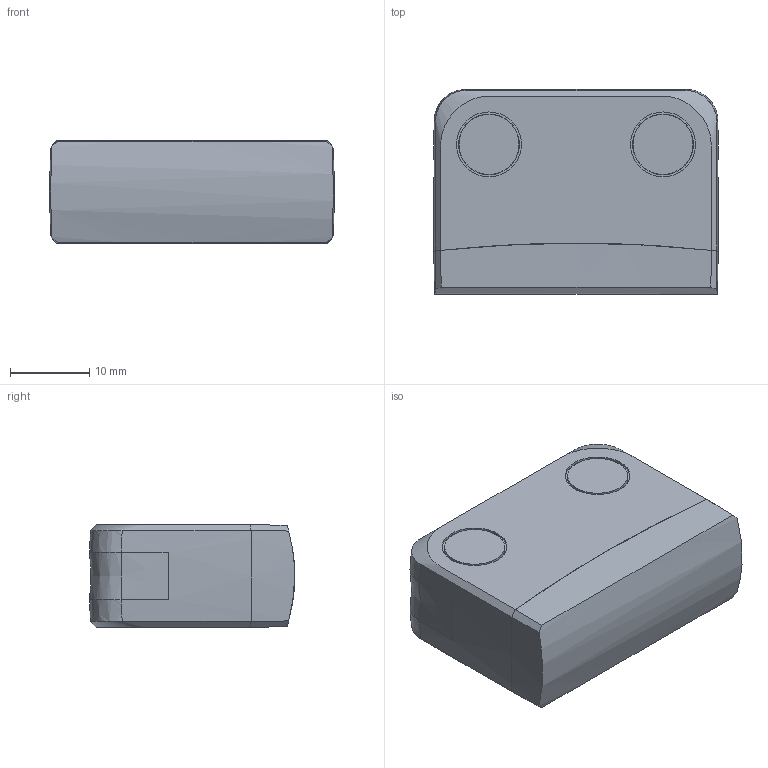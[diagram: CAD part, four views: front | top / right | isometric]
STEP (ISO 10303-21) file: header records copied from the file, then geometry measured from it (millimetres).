
FILE_DESCRIPTION(/* description */ ('Katalogmodell Elobau'),/* implementation_level */ '2;1');
FILE_NAME(/* name */ 'Katalogdaten.stp',/* time_stamp */ '2014-11-03T09:22:07+01:00',/* author */ ('Elobau GmbH & Co. KG'),/* organization */ ('Elobau GmbH & Co. KG'),/* preprocessor_version */ 'ST-DEVELOPER v15',/* originating_system */ 'SIEMENS PLM Software NX 8.5',/* authorisation */ '');
FILE_SCHEMA (('AUTOMOTIVE_DESIGN { 1 0 10303 214 3 1 1 1 }'));
Length unit declared in the file: millimetre
Products named in the file (1): 153MBK..._A
Bounding box: 36 x 25.91 x 13.02 mm (x, y, z)
Volume: 10897.4 mm3; surface area: 4185.4 mm2
Topology: 5 solids, 5 shells, 63 faces, 164 edges, 119 vertices
Faces by surface type: cylinder 21, bspline 20, plane 18, cone 4
Full cylindrical faces by diameter (mm): 4.5 x2, 7.6 x4, 8.2 x4
Entity records: 2977 total; most frequent: CARTESIAN_POINT 1624, ORIENTED_EDGE 284, DIRECTION 164, EDGE_CURVE 142, VERTEX_POINT 111, B_SPLINE_CURVE_WITH_KNOTS 104, EDGE_LOOP 89, AXIS2_PLACEMENT_3D 82
